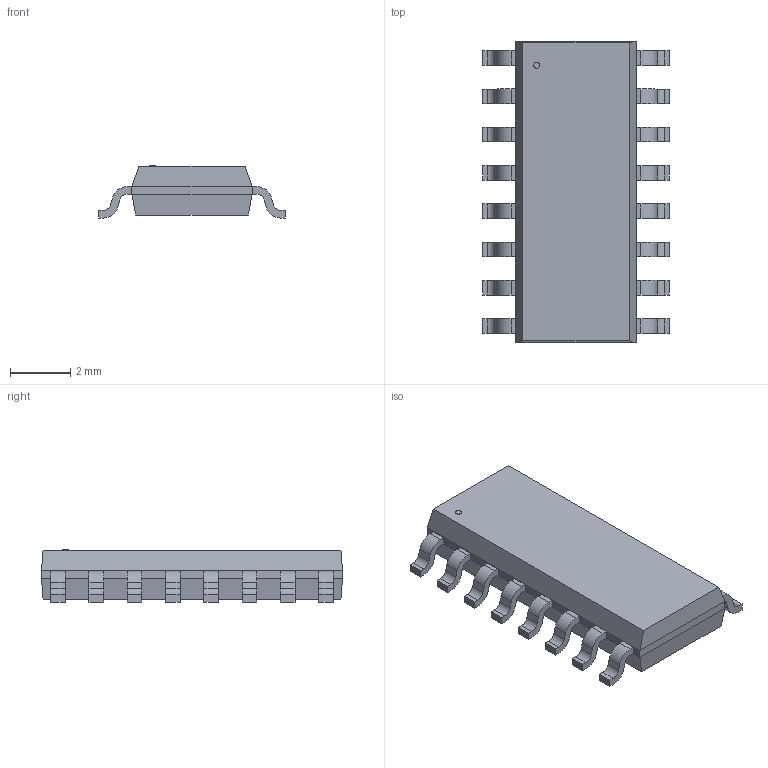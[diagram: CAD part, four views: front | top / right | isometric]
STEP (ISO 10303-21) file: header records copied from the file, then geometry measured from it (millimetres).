
FILE_DESCRIPTION(('STEP AP214'),'1');
FILE_NAME('ULN2003ADR2G_OSI','2026-01-12T09:23:01',(''),(''),'','','');
FILE_SCHEMA(('AUTOMOTIVE_DESIGN'));
Length unit declared in the file: millimetre
Products named in the file (1): product
Bounding box: 6.2 x 9.98 x 1.73 mm (x, y, z)
Volume: 65.1 mm3; surface area: 157.8 mm2
Topology: 18 solids, 18 shells, 241 faces, 607 edges, 402 vertices
Faces by surface type: plane 176, cylinder 65
Full cylindrical faces by diameter (mm): 0.199 x1
Entity records: 7021 total; most frequent: DIRECTION 1222, ORIENTED_EDGE 1212, CARTESIAN_POINT 711, EDGE_CURVE 606, LINE 476, VECTOR 476, VERTEX_POINT 402, AXIS2_PLACEMENT_3D 373
